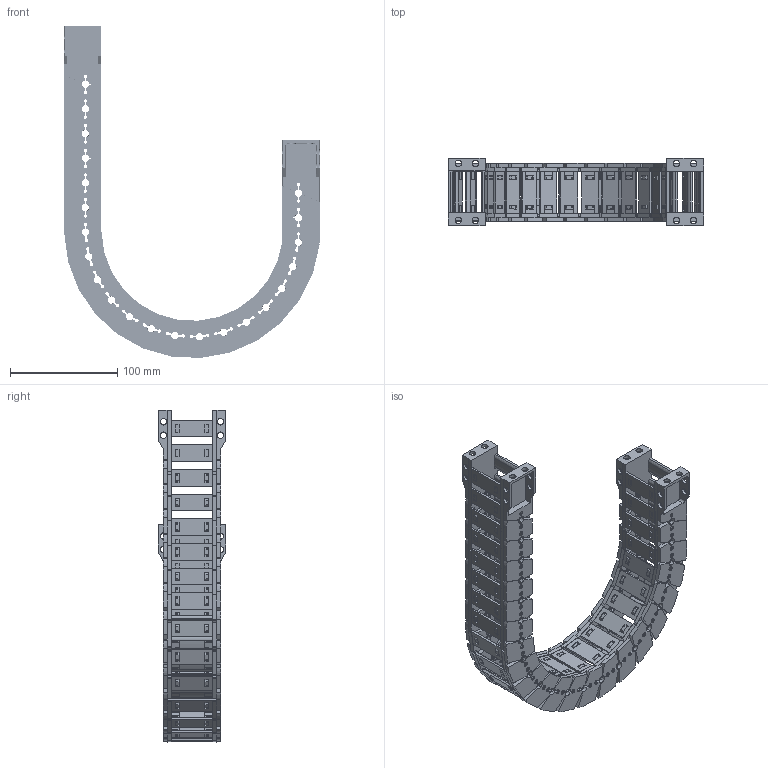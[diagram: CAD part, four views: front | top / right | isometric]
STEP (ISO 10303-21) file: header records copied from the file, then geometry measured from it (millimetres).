
FILE_DESCRIPTION(/* description */ (''),/* implementation_level */ '2;1');
FILE_NAME(/* name */ 'JY28-38-R100.stp',/* time_stamp */ '2026-06-03T13:55:40+08:00',/* author */ (''),/* organization */ (''),/* preprocessor_version */ 'ST-DEVELOPER v19.4',/* originating_system */ 'SIEMENS PLM Software NX2306.5001',/* authorisation */ '');
FILE_SCHEMA (('AP203_CONFIGURATION_CONTROLLED_3D_DESIGN_OF_MECHANICAL_PARTS_AND_ASSEMBLIES_MIM_LF { 1 0 10303 403 2 1 2}'));
Products named in the file (1): _model1_objects
Bounding box: 238.21 x 63 x 309.61 mm (x, y, z)
Volume: 339268.2 mm3; surface area: 248984.7 mm2
Topology: 86 solids, 86 shells, 7166 faces, 20384 edges, 13324 vertices
Faces by surface type: plane 4694, cone 1300, cylinder 1128, bspline 42, torus 2
Full cylindrical faces by diameter (mm): 6 x24
Entity records: 242416 total; most frequent: CARTESIAN_POINT 53852, ORIENTED_EDGE 40676, DIRECTION 38192, EDGE_CURVE 20338, LINE 13462, VECTOR 13462, VERTEX_POINT 13302, AXIS2_PLACEMENT_3D 12365
